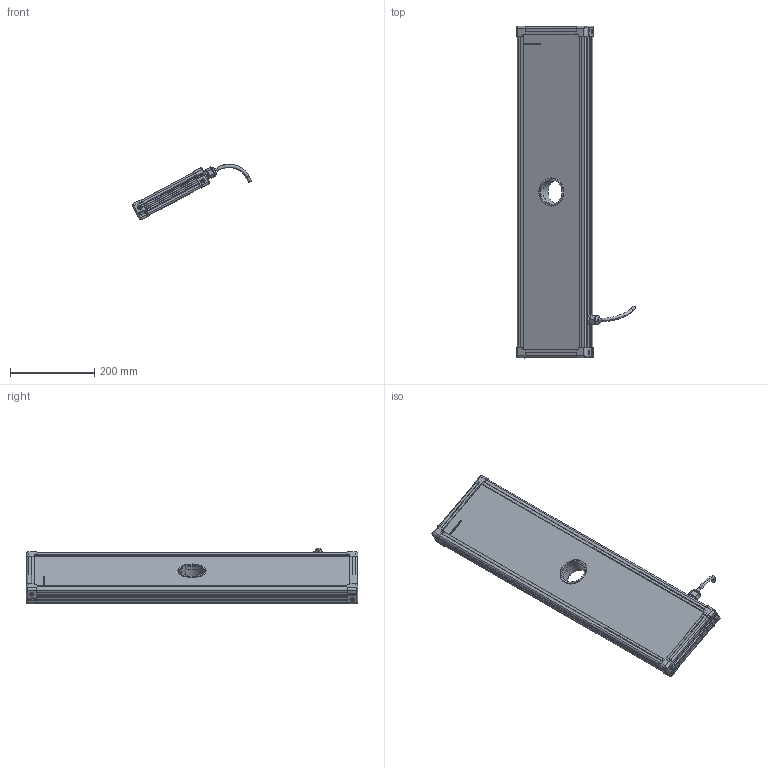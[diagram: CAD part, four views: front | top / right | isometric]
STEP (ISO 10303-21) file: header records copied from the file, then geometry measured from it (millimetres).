
FILE_DESCRIPTION (( 'STEP AP214' ), '1' );
FILE_NAME ('EFFI-BL-150-750-ZZZ-1M12P.STEP', '2021-06-21T07:49:36', ( '' ), ( '' ), 'SwSTEP 2.0', 'SolidWorks 2021', '' );
FILE_SCHEMA (( 'AUTOMOTIVE_DESIGN' ));
Length unit declared in the file: millimetre
Products named in the file (13): 001037; EFFI-BL-150-750-ZZZ-1M12P; profile Y_PERCE; 000590; profile X_PERCE; petite joue; Pièce13^EFFI-BL-XXX-YYY-ZZZ (1 connecteur) M12POWER Ø58.5; Assemblage Ø58.5; M12 power_AVEC CABLE D8.1; 001038; petite joue + vis; 000629
Assembly tree (19 placements, depth 3):
  EFFI-BL-150-750-ZZZ-1M12P
    profile X_PERCE  x2
    profile Y_PERCE
    profile Y_PERCE
    Pièce13^EFFI-BL-XXX-YYY-ZZZ (1 connecteur) M12POWER Ø58.5
    petite joue + vis  x4
      petite joue
      000629
    M12 power_AVEC CABLE D8.1
    Assemblage Ø58.5
      001037
      001038
      000590  x3
Bounding box: 282.59 x 789 x 131.93 mm (x, y, z)
Volume: 5036918.4 mm3; surface area: 618004.6 mm2
Topology: 22 solids, 25 shells, 3946 faces, 10510 edges, 6901 vertices
Faces by surface type: plane 2446, cylinder 718, bspline 591, cone 154, torus 29, sphere 8
Entity records: 55870 total; most frequent: CARTESIAN_POINT 22540, ORIENTED_EDGE 6994, DIRECTION 5720, EDGE_CURVE 3499, LINE 2454, VECTOR 2454, VERTEX_POINT 2302, AXIS2_PLACEMENT_3D 1633
